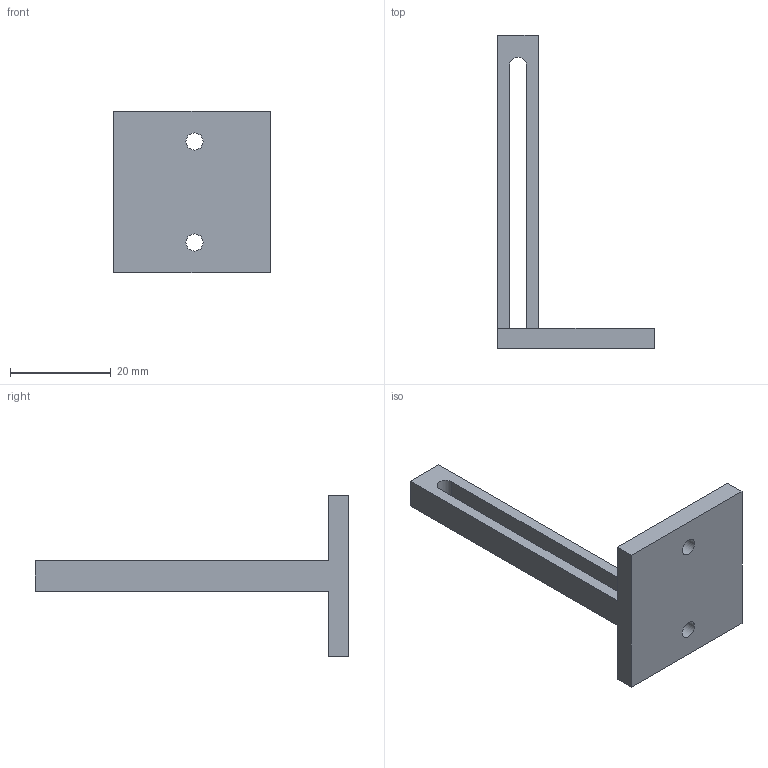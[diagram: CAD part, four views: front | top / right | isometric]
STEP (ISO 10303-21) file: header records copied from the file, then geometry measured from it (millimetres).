
FILE_DESCRIPTION(('Open CASCADE Model'),'2;1');
FILE_NAME('Open CASCADE Shape Model','2026-11-08T04:10:21',('Author'),( 'Open CASCADE'),'Open CASCADE STEP processor 7.8','Open CASCADE 7.8' ,'Unknown');
FILE_SCHEMA(('AUTOMOTIVE_DESIGN { 1 0 10303 214 1 1 1 1 }'));
Length unit declared in the file: millimetre
Products named in the file (1): Open CASCADE STEP translator 7.8 9
Bounding box: 31 x 62 x 32 mm (x, y, z)
Volume: 5555 mm3; surface area: 4499.5 mm2
Topology: 1 solids, 1 shells, 18 faces, 50 edges, 32 vertices
Faces by surface type: plane 14, cylinder 4
Full cylindrical faces by diameter (mm): 3.4 x2
Entity records: 1266 total; most frequent: CARTESIAN_POINT 249, DIRECTION 188, LINE 134, VECTOR 134, ORIENTED_EDGE 100, PCURVE 100, DEFINITIONAL_REPRESENTATION 100, EDGE_CURVE 50
